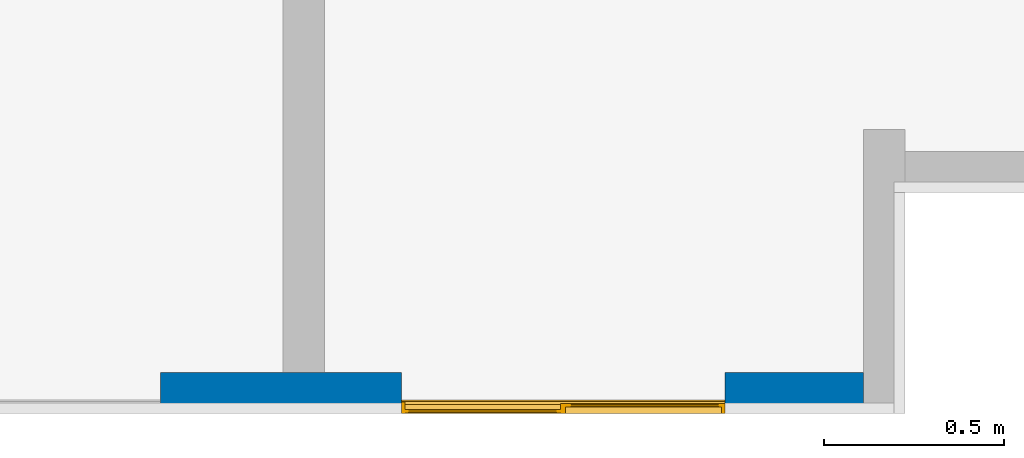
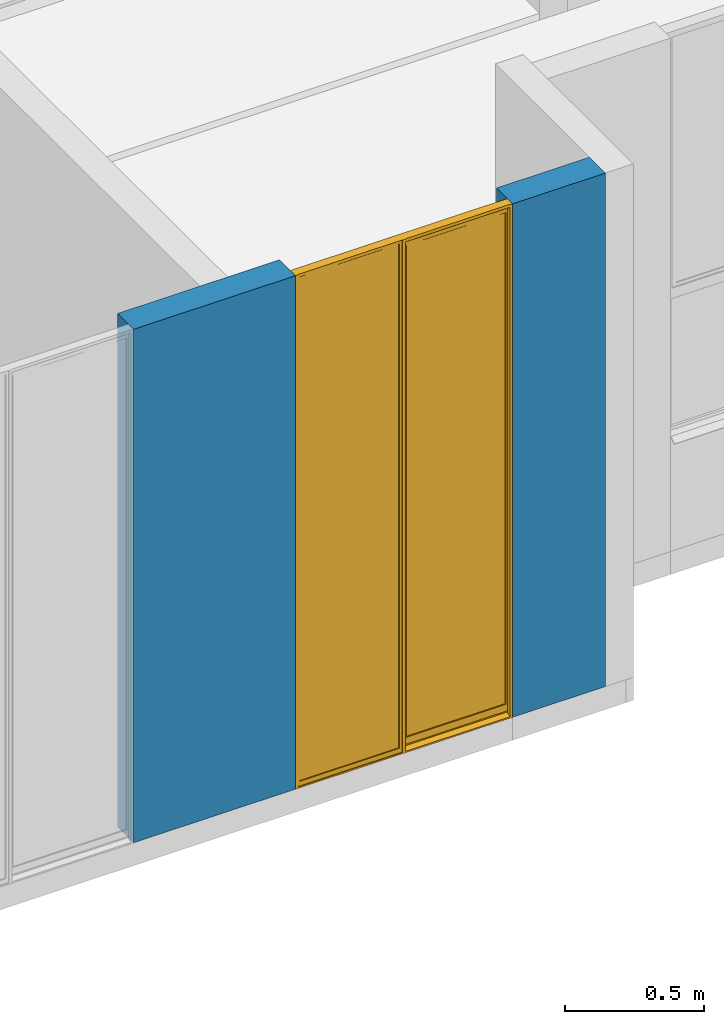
# One storey, part 4 of 47: 1 wall, 1 window, 2 openings.
"""IFC4 building model written with IfcOpenShell, lengths in metres."""

from ifc_helpers import new_model, entity, si_unit, converted_unit, derived_unit, direction, frame, origin, place, context, subcontext, project, spatial, indexed_curve, outline, extrude, polygons, source, transform, mapped, material, constituent, constituent_set, type_object, type_shapes, element, fill, save


model = new_model("IFC4")

# Units and contexts
model_context = context("Model", 3, precision=1e-05, world=origin(), true_north=direction((6.123031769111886e-17, 1.0)))
body_context = subcontext(model_context, "Body", "Model", "MODEL_VIEW")
ifc_project = project(units=[si_unit("LENGTHUNIT", "METRE"), si_unit("AREAUNIT", "SQUARE_METRE"), si_unit("VOLUMEUNIT", "CUBIC_METRE"), converted_unit("PLANEANGLEUNIT", "DEGREE", entity("IfcRatioMeasure", 0.017453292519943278), si_unit("PLANEANGLEUNIT", "RADIAN"), dimensions=[0, 0, 0, 0, 0, 0, 0]), si_unit("MASSUNIT", "GRAM", prefix="KILO"), derived_unit("MASSDENSITYUNIT", [(si_unit("MASSUNIT", "GRAM", prefix="KILO"), 1), (si_unit("LENGTHUNIT", "METRE"), -3)]), derived_unit("IONCONCENTRATIONUNIT", [(si_unit("MASSUNIT", "GRAM", prefix="KILO"), 1), (si_unit("LENGTHUNIT", "METRE"), -3)]), derived_unit("MOMENTOFINERTIAUNIT", [(si_unit("LENGTHUNIT", "METRE"), 4)]), si_unit("TIMEUNIT", "SECOND"), si_unit("FREQUENCYUNIT", "HERTZ"), si_unit("THERMODYNAMICTEMPERATUREUNIT", "DEGREE_CELSIUS"), derived_unit("THERMALTRANSMITTANCEUNIT", [(si_unit("MASSUNIT", "GRAM", prefix="KILO"), 1), (si_unit("THERMODYNAMICTEMPERATUREUNIT", "KELVIN"), -1), (si_unit("TIMEUNIT", "SECOND"), -3)]), derived_unit("THERMALCONDUCTANCEUNIT", [(si_unit("MASSUNIT", "GRAM", prefix="KILO"), 1), (si_unit("THERMODYNAMICTEMPERATUREUNIT", "KELVIN"), -1), (si_unit("TIMEUNIT", "SECOND"), -3), (si_unit("LENGTHUNIT", "METRE"), 1)]), derived_unit("VOLUMETRICFLOWRATEUNIT", [(si_unit("LENGTHUNIT", "METRE"), 3), (si_unit("TIMEUNIT", "SECOND"), -1)]), derived_unit("MASSFLOWRATEUNIT", [(si_unit("MASSUNIT", "GRAM", prefix="KILO"), 1), (si_unit("TIMEUNIT", "SECOND"), -1)]), derived_unit("ROTATIONALFREQUENCYUNIT", [(si_unit("TIMEUNIT", "SECOND"), -1)]), si_unit("ELECTRICCURRENTUNIT", "AMPERE"), si_unit("ELECTRICVOLTAGEUNIT", "VOLT"), si_unit("POWERUNIT", "WATT"), si_unit("FORCEUNIT", "NEWTON", prefix="KILO"), si_unit("ILLUMINANCEUNIT", "LUX"), si_unit("LUMINOUSFLUXUNIT", "LUMEN"), si_unit("LUMINOUSINTENSITYUNIT", "CANDELA"), derived_unit("USERDEFINED", [(si_unit("MASSUNIT", "GRAM", prefix="KILO"), -1), (si_unit("LENGTHUNIT", "METRE"), -2), (si_unit("TIMEUNIT", "SECOND"), 3), (si_unit("LUMINOUSFLUXUNIT", "LUMEN"), 1)]), derived_unit("USERDEFINED", [(si_unit("MASSUNIT", "GRAM", prefix="KILO"), 1), (si_unit("TIMEUNIT", "SECOND"), -3), (si_unit("LENGTHUNIT", "METRE"), 3), (si_unit("ELECTRICCURRENTUNIT", "AMPERE"), -2)]), derived_unit("SOUNDPOWERUNIT", [(si_unit("MASSUNIT", "GRAM", prefix="KILO"), 1), (si_unit("TIMEUNIT", "SECOND"), -3), (si_unit("LENGTHUNIT", "METRE"), 2)]), derived_unit("SOUNDPRESSUREUNIT", [(si_unit("MASSUNIT", "GRAM", prefix="KILO"), 1), (si_unit("LENGTHUNIT", "METRE"), -1), (si_unit("TIMEUNIT", "SECOND"), -2)]), derived_unit("LINEARVELOCITYUNIT", [(si_unit("LENGTHUNIT", "METRE"), 1), (si_unit("TIMEUNIT", "SECOND"), -1)]), si_unit("PRESSUREUNIT", "PASCAL"), derived_unit("USERDEFINED", [(si_unit("MASSUNIT", "GRAM", prefix="KILO"), 1), (si_unit("LENGTHUNIT", "METRE"), -2), (si_unit("TIMEUNIT", "SECOND"), -2)]), derived_unit("LINEARFORCEUNIT", [(si_unit("MASSUNIT", "GRAM", prefix="KILO"), 1), (si_unit("TIMEUNIT", "SECOND"), -2)]), derived_unit("PLANARFORCEUNIT", [(si_unit("MASSUNIT", "GRAM", prefix="KILO"), 1), (si_unit("LENGTHUNIT", "METRE"), -1), (si_unit("TIMEUNIT", "SECOND"), -2)]), derived_unit("SPECIFICHEATCAPACITYUNIT", [(si_unit("THERMODYNAMICTEMPERATUREUNIT", "KELVIN"), -1), (si_unit("LENGTHUNIT", "METRE"), 2), (si_unit("TIMEUNIT", "SECOND"), -2)]), derived_unit("HEATINGVALUEUNIT", [(si_unit("LENGTHUNIT", "METRE"), 2), (si_unit("TIMEUNIT", "SECOND"), -2)]), derived_unit("VAPORPERMEABILITYUNIT", [(si_unit("LENGTHUNIT", "METRE"), -1), (si_unit("TIMEUNIT", "SECOND"), 1)]), derived_unit("DYNAMICVISCOSITYUNIT", [(si_unit("MASSUNIT", "GRAM", prefix="KILO"), 1), (si_unit("TIMEUNIT", "SECOND"), -1), (si_unit("LENGTHUNIT", "METRE"), -1)]), derived_unit("THERMALEXPANSIONCOEFFICIENTUNIT", [(si_unit("THERMODYNAMICTEMPERATUREUNIT", "KELVIN"), -1)]), derived_unit("MODULUSOFELASTICITYUNIT", [(si_unit("MASSUNIT", "GRAM", prefix="KILO"), 1), (si_unit("LENGTHUNIT", "METRE"), -1), (si_unit("TIMEUNIT", "SECOND"), -2)]), derived_unit("ISOTHERMALMOISTURECAPACITYUNIT", [(si_unit("LENGTHUNIT", "METRE"), 3), (si_unit("MASSUNIT", "GRAM", prefix="KILO"), -1)]), derived_unit("MOISTUREDIFFUSIVITYUNIT", [(si_unit("TIMEUNIT", "SECOND"), -1), (si_unit("LENGTHUNIT", "METRE"), 2)])], contexts=[model_context])

# Site, building, storey
site_placement = place(None, origin())
site = spatial("IfcSite", under=ifc_project, at=site_placement, Name="Default", CompositionType="ELEMENT")
building_placement = place(site_placement, origin())
building = spatial("IfcBuilding", under=site, at=building_placement, CompositionType="ELEMENT")
storey_placement = place(building_placement, frame((0.0, 0.0, 11.750000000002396)))
storey = spatial("IfcBuildingStorey", under=building, at=storey_placement, Name="Nivel 6", CompositionType="ELEMENT", Elevation=11.750000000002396)

# Wall, openings, window
ifc_material_1 = material(Name="Ladrillo claro (Aire)", Category="Materials")
wall_type = type_object("IfcWallType", Name="Basic Wall:B2010 - 0.115m - Muro exterior en mampostería - Ladrillo", PredefinedType="STANDARD")
wall_placement = place(storey_placement, frame((6.067499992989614, -12.812500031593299, 0.0), z_axis=(0.0, 0.0, 1.0), x_axis=(-1.0, 0.0, 0.0)))
wall = element("IfcWall", 1, at=wall_placement, inside=storey, type_object=wall_type, material=ifc_material_1, Name="Basic Wall:B2010 - 0.115m - Muro exterior en mampostería - Ladrillo", ObjectType="Basic Wall:B2010 - 0.115m - Muro exterior en mampostería - Ladrillo", PredefinedType="NOTDEFINED", context=body_context, shape_type="Tessellation", body=[
    polygons([(6.500625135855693e-16, -0.057499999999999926, 2.250000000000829), (6.500625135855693e-16, -0.057499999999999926, -2.1657342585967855e-15), (0.38500000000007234, -0.057499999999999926, -2.1657342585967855e-15), (0.38500000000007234, -0.057499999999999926, 2.250000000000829), (2.177286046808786e-15, 0.057499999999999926, -2.1657342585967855e-15), (0.38500000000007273, 0.057499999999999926, -2.1657342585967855e-15), (0.38500000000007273, 0.057499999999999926, 2.250000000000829), (2.177286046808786e-15, 0.057499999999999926, 2.250000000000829)], [[[1, 2, 3, 4]], [[2, 5, 6, 3]], [[4, 3, 6, 7]], [[2, 1, 8, 5]], [[8, 1, 4, 7]], [[5, 8, 7, 6]]], closed=True),
    polygons([(1.9557999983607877, 0.057499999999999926, 2.250000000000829), (1.9557999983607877, 0.057499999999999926, -2.1657342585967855e-15), (1.2850000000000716, 0.057499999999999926, -2.1657342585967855e-15), (1.2850000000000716, 0.057499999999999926, 2.250000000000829), (1.9557999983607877, -0.057499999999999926, 2.250000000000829), (1.2850000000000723, -0.057499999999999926, 2.250000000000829), (1.4999999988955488, -0.057499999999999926, 2.2500000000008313), (1.6149999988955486, -0.057499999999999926, 2.2500000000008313), (1.9557999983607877, -0.057499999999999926, -2.1657342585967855e-15), (1.2850000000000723, -0.057499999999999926, -2.1657342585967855e-15), (1.6149999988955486, -0.057499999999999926, -2.1657342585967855e-15), (1.4999999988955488, -0.057499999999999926, -2.1657342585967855e-15)], [[[1, 2, 3, 4]], [[5, 1, 4, 6, 7, 8]], [[5, 9, 2, 1]], [[10, 6, 4, 3]], [[2, 9, 11, 12, 10, 3]], [[9, 5, 8, 7, 6, 10, 12, 11]]], closed=True),
])
opening_1_placement = place(wall_placement, frame((2.975799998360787, 0.05749999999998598, 0.0)))
element("IfcOpeningElement", 2, at=opening_1_placement, cuts=wall, Name="B2020 - Ventana corrediza 2C - Aluminio + Vidrio:B2020 - 1.02m x 2.25m - Ventana corrediza 2C - Aluminio + Vidrio:1", PredefinedType="OPENING", context=body_context, shape_type="SweptSolid", body=[
    extrude(outline(indexed_curve([(0.0, -7.394753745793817e-30), (2.2499999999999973, -7.394753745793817e-30), (2.249999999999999, 1.0199999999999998), (0.0, 1.0199999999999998), (0.0, -7.394753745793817e-30)], self_intersect=False)), frame((0.0, 0.0, 0.0), z_axis=(0.0, -1.0, 0.0), x_axis=(0.0, 0.0, 1.0)), (0.0, 0.0, 1.0), 0.115),
])
opening_2_placement = place(wall_placement, frame((1.2850000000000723, 0.05749999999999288, 0.0)))
opening_2 = element("IfcOpeningElement", 3, at=opening_2_placement, cuts=wall, Name="B2020 - Ventana corrediza 2C - Aluminio + Vidrio:B2020 - 0.90m x 2.25m - Ventana corrediza 2C - Aluminio + Vidrio:1", PredefinedType="OPENING", context=body_context, shape_type="SweptSolid", body=[
    extrude(outline(indexed_curve([(0.0, 1.353583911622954e-16), (2.2499999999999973, 1.353583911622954e-16), (2.249999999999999, 0.9), (0.0, 0.9), (0.0, 1.353583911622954e-16)], self_intersect=False)), frame((0.0, 0.0, 0.0), z_axis=(0.0, -1.0, 0.0), x_axis=(0.0, 0.0, 1.0)), (0.0, 0.0, 1.0), 0.115),
])
ifc_material_2 = material(Name="Vidrio", Category="Materials")
ifc_constituent_1 = constituent(ifc_material_2, Name="Vidrio", Category="Materials")
ifc_material_3 = material(Name="<Unnamed>")
ifc_constituent_2 = constituent(ifc_material_3, Name="<Unnamed>")
ifc_constituent_set_1 = constituent_set(constituents=[ifc_constituent_1, ifc_constituent_2])
ifc_constituent_3 = constituent(ifc_material_2, Name="Vidrio", Category="Materials")
ifc_constituent_4 = constituent(ifc_material_3, Name="<Unnamed>")
ifc_constituent_set_2 = constituent_set(constituents=[ifc_constituent_3, ifc_constituent_4])
window_type = type_object("IfcWindowType", Name="B2020 - Ventana corrediza 2C - Aluminio + Vidrio:B2020 - 0.90m x 2.25m - Ventana corrediza 2C - Aluminio + Vidrio", PartitioningType="NOTDEFINED", PredefinedType="WINDOW", material=ifc_constituent_set_2)
shared_shape = source(origin(), body_context, "Body", "Tessellation", [
    polygons([(0.4701871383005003, 0.11311505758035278, 0.028641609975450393), (0.8800323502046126, 0.11311505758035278, 0.028641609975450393), (0.8800323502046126, 0.10801372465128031, 0.028641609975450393), (0.4701871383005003, 0.10801372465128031, 0.028641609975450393), (0.4701871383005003, 0.11311505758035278, 2.2347073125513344), (0.4701871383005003, 0.10801372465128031, 2.2347073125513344), (0.8800323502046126, 0.10801372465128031, 2.2347073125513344), (0.8800323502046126, 0.11311505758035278, 2.2347073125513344)], [[[1, 2, 3, 4]], [[5, 1, 4, 6]], [[6, 4, 3, 7]], [[7, 3, 2, 8]], [[8, 2, 1, 5]], [[5, 6, 7, 8]]], closed=True),
    polygons([(0.01884633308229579, 0.0962952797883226, 0.054189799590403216), (0.4282710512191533, 0.0962952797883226, 0.054189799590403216), (0.4282710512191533, 0.09199928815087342, 0.054189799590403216), (0.01884633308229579, 0.09199928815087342, 0.054189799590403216), (0.01884633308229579, 0.0962952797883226, 2.2043993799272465), (0.01884633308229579, 0.09199928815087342, 2.2043993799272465), (0.4282710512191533, 0.09199928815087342, 2.2043993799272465), (0.4282710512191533, 0.0962952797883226, 2.2043993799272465)], [[[1, 2, 3, 4]], [[5, 1, 4, 6]], [[6, 4, 3, 7]], [[7, 3, 2, 8]], [[8, 2, 1, 5]], [[5, 6, 7, 8]]], closed=True),
    polygons([(1.610764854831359e-14, 0.08248628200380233, 0.020380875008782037), (1.610764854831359e-14, 0.07981389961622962, 0.020380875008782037), (1.610764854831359e-14, 0.07981389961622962, 0.025674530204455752), (1.610764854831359e-14, 0.08106389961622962, 0.025674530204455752), (1.610764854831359e-14, 0.08106389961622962, 0.02163087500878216), (1.610764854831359e-14, 0.08373628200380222, 0.02163087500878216), (1.610764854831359e-14, 0.08373628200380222, 0.017447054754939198), (1.610764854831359e-14, 0.08932238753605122, 0.017447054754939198), (1.610764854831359e-14, 0.08932238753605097, 2.24863686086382), (1.5972290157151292e-14, 0.0810593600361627, 2.24863686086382), (1.5972290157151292e-14, 0.0810593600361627, 2.2365872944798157), (1.5972290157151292e-14, 0.07969622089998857, 2.2365872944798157), (1.5972290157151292e-14, 0.07969622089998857, 2.2499999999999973), (1.610764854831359e-14, 0.11748628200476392, 2.2499999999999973), (1.5972290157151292e-14, 0.1174862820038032, -2.5718094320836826e-15), (1.610764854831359e-14, 0.08248628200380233, -2.5718094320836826e-15), (0.900000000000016, 0.08248628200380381, 0.020380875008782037), (0.900000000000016, 0.08248628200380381, -2.5718094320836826e-15), (0.900000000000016, 0.11748628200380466, -2.5718094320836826e-15), (0.45664549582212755, 0.11748628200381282, 2.2499999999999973), (0.45664549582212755, 0.11748628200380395, 0.006176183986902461), (0.8900000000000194, 0.11748628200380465, 0.006176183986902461), (0.8900000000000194, 0.11748628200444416, 2.2499999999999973), (0.900000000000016, 0.11748628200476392, 2.2499999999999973), (0.009897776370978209, 0.11748628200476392, 2.2499999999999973), (0.009897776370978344, 0.1174862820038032, 0.006176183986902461), (0.4433545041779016, 0.11748628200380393, 0.006176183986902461), (0.4433545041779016, 0.11748628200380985, 2.2499999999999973), (0.016298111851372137, 0.0893223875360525, 2.2069861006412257), (0.4433545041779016, 0.0893223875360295, 2.2069861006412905), (0.4433545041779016, 0.08932238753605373, 2.2043993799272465), (0.430819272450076, 0.08932238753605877, 2.2043993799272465), (0.4308192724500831, 0.08932238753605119, 0.0519155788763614), (0.01629811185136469, 0.08932238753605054, 0.0519155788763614), (0.016298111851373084, 0.08932238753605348, 2.237270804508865), (0.01629811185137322, 0.08932238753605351, 2.24863686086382), (0.0037628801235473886, 0.08932238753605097, 0.017447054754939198), (0.0037628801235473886, 0.0893223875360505, 0.02163087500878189), (0.4433545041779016, 0.0893223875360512, 0.021630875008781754), (0.4433545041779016, 0.08932238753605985, 0.017447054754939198), (0.4580471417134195, 0.08932238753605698, 0.017447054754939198), (0.4580471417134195, 0.0893223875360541, 2.24863686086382), (0.4433545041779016, 0.08932238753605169, 2.24863686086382), (0.4433545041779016, 0.08932238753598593, 2.237270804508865), (0.900000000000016, 0.08373628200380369, 0.017447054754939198), (0.900000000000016, 0.08548628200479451, 0.017447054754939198), (0.8900000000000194, 0.08548628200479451, 0.017447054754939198), (0.8900000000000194, 0.09284764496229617, 0.017447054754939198), (0.4580471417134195, 0.09284764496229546, 0.017447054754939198), (0.4433545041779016, 0.09284764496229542, 0.017447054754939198), (0.0037628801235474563, 0.09284764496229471, 0.017447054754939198), (0.900000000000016, 0.08373628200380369, 0.02163087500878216), (0.900000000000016, 0.08106389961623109, 0.02163087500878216), (0.900000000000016, 0.08106389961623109, 0.025674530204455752), (0.900000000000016, 0.07981389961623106, 0.025674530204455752), (0.900000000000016, 0.07981389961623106, 0.020380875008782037), (0.01884290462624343, 0.09629339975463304, 0.054191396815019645), (0.4282772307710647, 0.09629080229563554, 0.054191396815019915), (0.4308192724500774, 0.09897218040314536, 0.051915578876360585), (0.016298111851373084, 0.09897218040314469, 0.051915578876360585), (0.01629811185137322, 0.09897218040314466, 2.237270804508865), (0.01629811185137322, 0.09897218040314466, 2.24863686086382), (0.018846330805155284, 0.0962732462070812, 2.24863686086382), (0.018846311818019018, 0.0962733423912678, 2.237270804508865), (0.430819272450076, 0.09897218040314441, 2.2043993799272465), (0.4433545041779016, 0.09897218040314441, 2.2043993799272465), (0.4433545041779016, 0.09897218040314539, 0.02163087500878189), (0.009897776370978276, 0.09897218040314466, 0.021630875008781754), (0.009897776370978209, 0.09897218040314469, 2.24863686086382), (0.4433545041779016, 0.09897218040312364, 2.237270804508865), (0.4433545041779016, 0.09897218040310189, 2.2069861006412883), (0.01629811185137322, 0.09897218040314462, 2.2069861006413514), (0.4282710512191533, 0.09628602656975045, 2.2043993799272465), (0.01884015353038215, 0.09200376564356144, 0.05419139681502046), (0.42827447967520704, 0.09200116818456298, 0.05419139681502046), (0.018846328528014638, 0.09202132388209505, 2.24863686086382), (0.01884629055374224, 0.09202124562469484, 2.237270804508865), (0.4282710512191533, 0.09200843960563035, 2.204399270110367), (0.4580471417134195, 0.09284764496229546, 0.011279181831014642), (0.4580471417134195, 0.09612320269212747, 0.010600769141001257), (0.4580471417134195, 0.09612320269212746, 0.014402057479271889), (0.4580471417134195, 0.10582811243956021, 0.014402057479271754), (0.4580471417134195, 0.1058281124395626, 2.24863686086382), (0.4433545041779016, 0.09199945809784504, 2.204399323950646), (0.0037628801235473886, 0.09897218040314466, 0.02163087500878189), (0.0037628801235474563, 0.09284764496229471, 0.011279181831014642), (0.0037628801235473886, 0.09897218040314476, 0.010010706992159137), (0.009897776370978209, 0.09897218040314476, 0.010010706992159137), (0.009897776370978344, 0.1153006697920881, 2.2499999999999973), (0.009897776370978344, 0.11530066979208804, 2.2369062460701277), (0.009897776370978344, 0.11310173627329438, 2.234707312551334), (0.009897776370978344, 0.1080270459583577, 2.234707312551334), (0.009897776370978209, 0.10582811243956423, 2.2369062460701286), (0.009897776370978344, 0.10582811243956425, 2.24863686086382), (0.900000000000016, 0.07969622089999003, 2.2499999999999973), (0.900000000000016, 0.07969622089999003, 2.2365872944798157), (0.900000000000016, 0.08105936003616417, 2.2365872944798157), (0.900000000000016, 0.08105936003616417, 2.24863686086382), (0.900000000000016, 0.08548628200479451, 2.24863686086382), (0.8900000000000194, 0.08548628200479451, 2.24863686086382), (0.8900000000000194, 0.09284764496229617, 0.011279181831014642), (0.8900000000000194, 0.10582811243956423, 2.24863686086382), (0.8900000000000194, 0.10582811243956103, 0.014402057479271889), (0.8900000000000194, 0.09612320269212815, 0.014402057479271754), (0.8900000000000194, 0.09612320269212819, 0.010600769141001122), (0.45664549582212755, 0.1153006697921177, 0.006628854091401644), (0.45664549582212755, 0.11530066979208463, 2.2499999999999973), (0.8900000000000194, 0.11530066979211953, 0.0066288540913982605), (0.8900000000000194, 0.11530066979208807, 2.2499999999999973), (0.4433545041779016, 0.11530066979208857, 2.2499999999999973), (0.4433545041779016, 0.1153006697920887, 2.2369062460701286), (0.4676389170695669, 0.11530066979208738, 0.026824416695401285), (0.46763891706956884, 0.11530066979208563, 2.236906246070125), (0.4701871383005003, 0.1131150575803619, 2.234713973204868), (0.4701871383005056, 0.11311505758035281, 0.028641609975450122), (0.8800323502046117, 0.11311505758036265, 0.028641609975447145), (0.8800323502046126, 0.11311505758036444, 2.2347139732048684), (0.8825805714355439, 0.11530066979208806, 2.236906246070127), (0.8825805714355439, 0.1153006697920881, 0.026824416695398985), (0.8800323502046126, 0.10801372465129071, 0.02864160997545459), (0.47018713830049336, 0.10801372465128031, 0.028641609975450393), (0.46763891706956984, 0.10582811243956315, 0.02682441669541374), (0.8825805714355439, 0.10582811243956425, 0.026824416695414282), (0.46763891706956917, 0.10582811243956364, 2.2369062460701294), (0.8825805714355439, 0.10582811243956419, 2.2369062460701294), (0.8800311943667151, 0.108016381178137, 2.2347113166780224), (0.47018829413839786, 0.10801638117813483, 2.234711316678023), (0.4433545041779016, 0.09629516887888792, 2.204399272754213), (0.018846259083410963, 0.09627365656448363, 2.204388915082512), (0.018844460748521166, 0.09201660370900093, 2.2043931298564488), (0.4433545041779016, 0.10582811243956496, 2.24863686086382), (0.4433545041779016, 0.10802704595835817, 2.2347073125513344), (0.4433545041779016, 0.10582811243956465, 2.2369062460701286), (0.4433545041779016, 0.11310173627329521, 2.2347073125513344), (0.4433545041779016, 0.09284764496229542, 0.011279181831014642)], [[[1, 2, 3, 4, 5, 6, 7, 8, 9, 10, 11, 12, 13, 14, 15, 16]], [[17, 1, 16, 18]], [[16, 15, 19, 18]], [[20, 21, 22, 23, 24, 19, 15, 14, 25, 26, 27, 28]], [[35, 36, 9, 8, 37, 38, 39, 40, 41, 42, 43, 44], [29, 30, 31, 32, 33, 34]], [[45, 46, 47, 48, 49, 41, 40, 50, 51, 37, 8, 7]], [[45, 7, 6, 52]], [[52, 6, 5, 53]], [[53, 5, 4, 54]], [[54, 4, 3, 55]], [[55, 3, 2, 56]], [[56, 2, 1, 17]], [[57, 58, 59, 60]], [[61, 62, 63, 64]], [[60, 59, 65, 66, 67, 68, 69, 62, 61, 70, 71, 72]], [[65, 59, 58, 73]], [[74, 75, 58, 57]], [[64, 63, 76, 77]], [[58, 75, 78, 73]], [[34, 33, 75, 74]], [[77, 76, 36, 35]], [[78, 75, 33, 32]], [[49, 79, 80, 81, 82, 83, 42, 41]], [[84, 31, 30]], [[39, 38, 85, 68, 67]], [[85, 38, 37, 51, 86, 87]], [[68, 85, 87, 88]], [[25, 89, 90, 91, 92, 93, 94, 69, 68, 88, 26]], [[17, 18, 19, 24, 95, 96, 97, 98, 99, 46, 45, 52, 53, 54, 55, 56]], [[46, 99, 100, 47]], [[49, 48, 101, 79]], [[47, 100, 102, 103, 104, 105, 101, 48]], [[79, 101, 105, 80]], [[106, 21, 20, 107]], [[23, 22, 108, 109]], [[110, 111, 90, 89]], [[80, 105, 104, 81]], [[112, 113, 114, 115]], [[116, 117, 118, 119]], [[119, 112, 115, 116]], [[120, 121, 122, 123]], [[103, 102, 83, 82], [122, 124, 125, 123]], [[123, 125, 126, 120]], [[121, 127, 124, 122]], [[81, 104, 103, 82]], [[120, 126, 117, 116]], [[116, 115, 121, 120]], [[115, 114, 127, 121]], [[13, 95, 24, 23, 109, 107, 20, 28, 110, 89, 25, 14]], [[72, 71, 128, 73, 129]], [[129, 73, 78, 130]], [[130, 78, 84, 30, 29]], [[77, 35, 44, 70, 61, 64]], [[31, 84, 78, 32]], [[97, 11, 10, 98]], [[96, 12, 11, 97]], [[95, 13, 12, 96]], [[118, 117, 114, 113]], [[127, 114, 117, 126]], [[124, 127, 126, 125]], [[10, 9, 36, 76, 63, 62, 69, 94, 131, 43, 42, 83, 102, 100, 99, 98]], [[132, 133, 93, 92]], [[134, 132, 92, 91]], [[111, 134, 91, 90]], [[73, 128, 66, 65]], [[133, 131, 94, 93]], [[109, 108, 106, 107], [112, 119, 118, 113]], [[106, 108, 22, 21]], [[27, 26, 88, 87, 86, 135]], [[135, 86, 51, 50]], [[27, 135, 50, 40, 39, 67, 66, 128, 71, 70, 44, 43, 131, 133, 132, 134, 111, 110, 28]], [[74, 130, 29, 34]], [[57, 129, 130, 74]], [[60, 72, 129, 57]]], closed=True),
])
type_shapes(window_type, [shared_shape])
window_placement = place(opening_2_placement, frame((-0.9000000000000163, -0.11748628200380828, 0.0)))
window = element("IfcWindow", 4, at=window_placement, inside=storey, type_object=window_type, material=ifc_constituent_set_1, Name="B2020 - Ventana corrediza 2C - Aluminio + Vidrio:B2020 - 0.90m x 2.25m - Ventana corrediza 2C - Aluminio + Vidrio", ObjectType="B2020 - Ventana corrediza 2C - Aluminio + Vidrio:B2020 - 0.90m x 2.25m - Ventana corrediza 2C - Aluminio + Vidrio", OverallHeight=2.2499999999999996, OverallWidth=0.9000000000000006, PartitioningType="NOTDEFINED", PredefinedType="WINDOW", context=body_context, shape_type="MappedRepresentation", body=[
    mapped(shared_shape, transform((0.0, 0.0, 0.0), scale=1.0)),
])
fill(opening_2, window)

save(model, "model.ifc")
